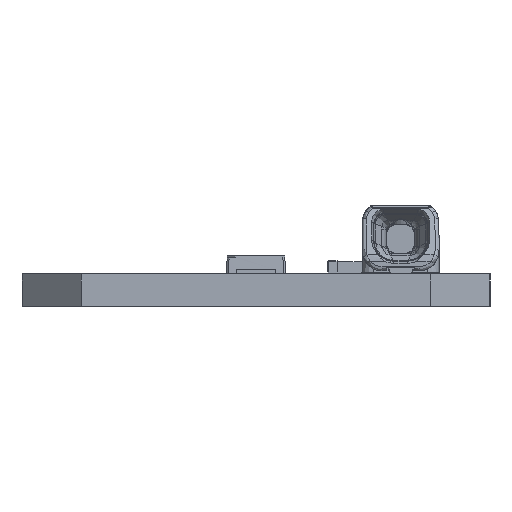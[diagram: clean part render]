
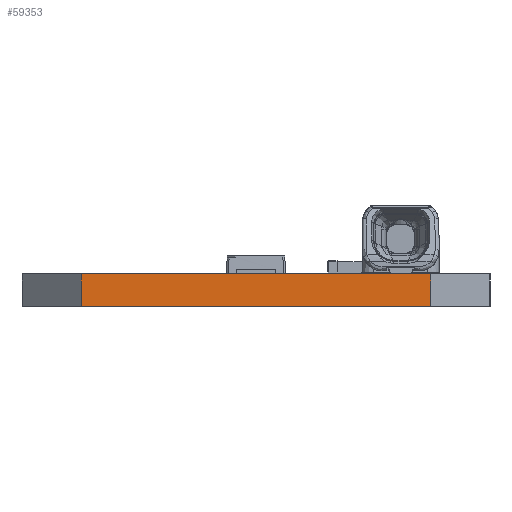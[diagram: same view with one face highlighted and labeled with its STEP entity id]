
A CAD part, left-side view. The second image highlights one B-rep face of the part: STEP entity #59353.
In plain terms, the highlighted planar face has unit normal (-1, 0, 0).
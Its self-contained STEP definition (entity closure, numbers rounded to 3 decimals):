
#3033=DIRECTION('',(0.,0.,1.));
#3034=VECTOR('',#3033,1.65);
#3035=CARTESIAN_POINT('',(-279.5,8.8,0.));
#3036=LINE('',#3035,#3034);
#3040=DIRECTION('',(0.,-1.,0.));
#3041=VECTOR('',#3040,17.6);
#3042=CARTESIAN_POINT('',(-279.5,8.8,1.65));
#3043=LINE('',#3042,#3041);
#3047=DIRECTION('',(0.,0.,1.));
#3048=VECTOR('',#3047,1.65);
#3049=CARTESIAN_POINT('',(-279.5,-8.8,0.));
#3050=LINE('',#3049,#3048);
#3317=DIRECTION('',(0.,-1.,0.));
#3318=VECTOR('',#3317,17.6);
#3319=CARTESIAN_POINT('',(-279.5,8.8,0.));
#3320=LINE('',#3319,#3318);
#49272=CARTESIAN_POINT('',(-279.5,-8.8,1.65));
#49273=VERTEX_POINT('',#49272);
#49274=CARTESIAN_POINT('',(-279.5,8.8,1.65));
#49275=VERTEX_POINT('',#49274);
#50731=CARTESIAN_POINT('',(-279.5,8.8,0.));
#50732=VERTEX_POINT('',#50731);
#50733=CARTESIAN_POINT('',(-279.5,-8.8,0.));
#50734=VERTEX_POINT('',#50733);
#59340=CARTESIAN_POINT('',(-279.5,0.,0.825));
#59341=DIRECTION('',(1.,0.,0.));
#59342=DIRECTION('',(0.,0.,1.));
#59343=AXIS2_PLACEMENT_3D('',#59340,#59341,#59342);
#59344=PLANE('',#59343);
#59346=ORIENTED_EDGE('',*,*,#59345,.F.);
#59348=ORIENTED_EDGE('',*,*,#59347,.F.);
#59349=ORIENTED_EDGE('',*,*,#59324,.T.);
#59350=ORIENTED_EDGE('',*,*,#57156,.T.);
#59351=EDGE_LOOP('',(#59346,#59348,#59349,#59350));
#59352=FACE_OUTER_BOUND('',#59351,.F.);
#57156=EDGE_CURVE('',#49275,#49273,#3043,.T.);
#59324=EDGE_CURVE('',#50732,#49275,#3036,.T.);
#59345=EDGE_CURVE('',#50734,#49273,#3050,.T.);
#59347=EDGE_CURVE('',#50732,#50734,#3320,.T.);
#59353=ADVANCED_FACE('',(#59352),#59344,.F.);
